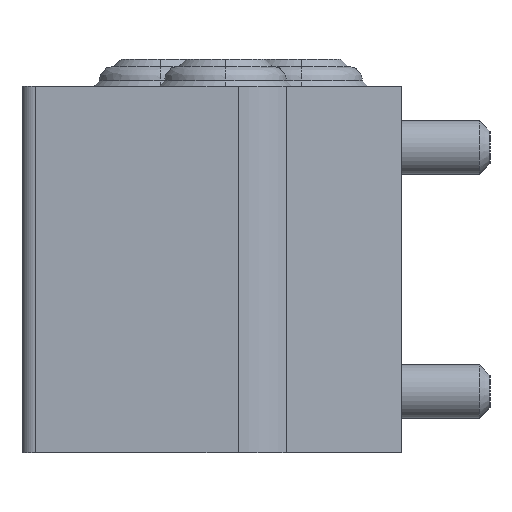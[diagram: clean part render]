
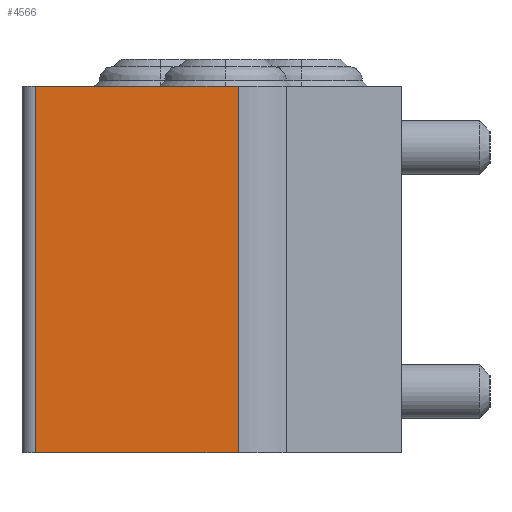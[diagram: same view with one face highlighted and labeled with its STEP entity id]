
A CAD part, left-side view. The second image highlights one B-rep face of the part: STEP entity #4566.
In plain terms, the highlighted planar face has unit normal (-1, 0, 0).
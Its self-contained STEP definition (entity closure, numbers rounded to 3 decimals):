
#54 = CARTESIAN_POINT ( 'NONE',  ( -38.517, -28.412, 13.5 ) ) ;
#229 = CARTESIAN_POINT ( 'NONE',  ( -38.517, -40.483, 13.5 ) ) ;
#286 = LINE ( 'NONE', #1267, #1231 ) ;
#804 = DIRECTION ( 'NONE',  ( 0., 1., 0. ) ) ;
#809 = VECTOR ( 'NONE', #940, 1000. ) ;
#940 = DIRECTION ( 'NONE',  ( 0., 0., -1. ) ) ;
#1125 = DIRECTION ( 'NONE',  ( 0., 0., 1. ) ) ;
#1231 = VECTOR ( 'NONE', #1378, 1000. ) ;
#1254 = CARTESIAN_POINT ( 'NONE',  ( -38.517, -13.483, 13.5 ) ) ;
#1267 = CARTESIAN_POINT ( 'NONE',  ( -38.517, -40.483, -13.5 ) ) ;
#1378 = DIRECTION ( 'NONE',  ( 0., 1., 0. ) ) ;
#2395 = ORIENTED_EDGE ( 'NONE', *, *, #2766, .F. ) ;
#2570 = ORIENTED_EDGE ( 'NONE', *, *, #2762, .F. ) ;
#2694 = EDGE_CURVE ( 'NONE', #3303, #6842, #3920, .T. ) ;
#2732 = EDGE_CURVE ( 'NONE', #3303, #8383, #6135, .T. ) ;
#2762 = EDGE_CURVE ( 'NONE', #5896, #8383, #5876, .T. ) ;
#2766 = EDGE_CURVE ( 'NONE', #6842, #5896, #286, .T. ) ;
#2837 = ORIENTED_EDGE ( 'NONE', *, *, #2732, .T. ) ;
#3224 = DIRECTION ( 'NONE',  ( 0., 0., -1. ) ) ;
#3254 = DIRECTION ( 'NONE',  ( 1., 0., 0. ) ) ;
#3282 = ORIENTED_EDGE ( 'NONE', *, *, #2694, .F. ) ;
#3303 = VERTEX_POINT ( 'NONE', #5757 ) ;
#3334 = PLANE ( 'NONE',  #6641 ) ;
#3559 = CARTESIAN_POINT ( 'NONE',  ( -38.517, -30.483, 13.5 ) ) ;
#3920 = LINE ( 'NONE', #54, #809 ) ;
#4269 = FACE_OUTER_BOUND ( 'NONE', #8058, .T. ) ;
#4566 = ADVANCED_FACE ( 'NONE', ( #4269 ), #3334, .F. ) ;
#5121 = CARTESIAN_POINT ( 'NONE',  ( -38.517, -28.412, -13.5 ) ) ;
#5581 = VECTOR ( 'NONE', #804, 1000. ) ;
#5757 = CARTESIAN_POINT ( 'NONE',  ( -38.517, -28.412, 13.5 ) ) ;
#5789 = CARTESIAN_POINT ( 'NONE',  ( -38.517, -13.483, -13.5 ) ) ;
#5876 = LINE ( 'NONE', #1254, #7121 ) ;
#5896 = VERTEX_POINT ( 'NONE', #5789 ) ;
#6135 = LINE ( 'NONE', #229, #5581 ) ;
#6148 = CARTESIAN_POINT ( 'NONE',  ( -38.517, -13.483, 13.5 ) ) ;
#6641 = AXIS2_PLACEMENT_3D ( 'NONE', #3559, #3254, #3224 ) ;
#6842 = VERTEX_POINT ( 'NONE', #5121 ) ;
#7121 = VECTOR ( 'NONE', #1125, 1000. ) ;
#8058 = EDGE_LOOP ( 'NONE', ( #3282, #2837, #2570, #2395 ) ) ;
#8383 = VERTEX_POINT ( 'NONE', #6148 ) ;
